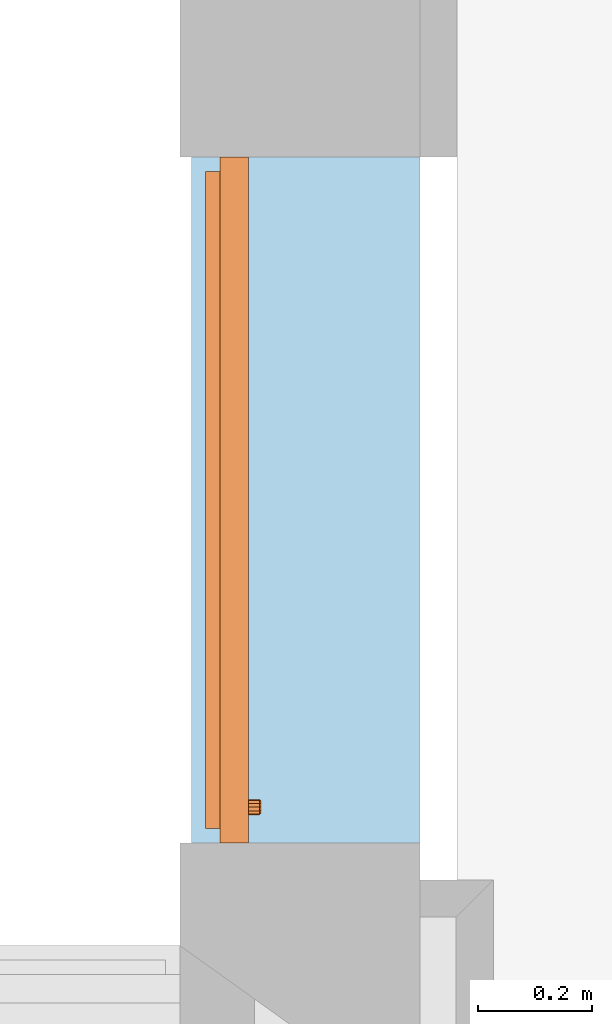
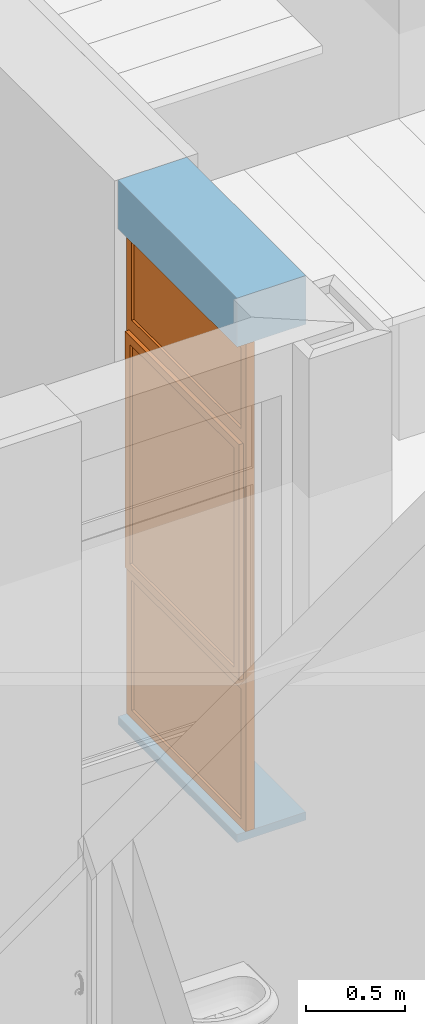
# One storey, part 53 of 68: 1 proxy, 1 opening, plus 1 element that does not belong to this part.
"""IFC2X3 building model written with IfcOpenShell, lengths in millimetres."""

import ifcopenshell
import ifcopenshell.guid

model = None  # the IFC model being written
_history = None  # IfcOwnerHistory: only IFC2X3 demands one
_inside = {}  # id of a spatial element -> (the spatial element, [elements in it])
_under = {}  # id of a project, library or spatial element -> (it, [spatial elements below it])
_declared = {}  # id of a project -> (the project, [libraries it declares])
_typed = {}  # id of a type object -> (the type object, [elements of that type])
_made_of = {}  # id of a material, layer set ... -> (it, [elements and type objects made of it])


def new_model(schema):
    """Start an empty IFC model of exactly this schema.

    Asked for "IFC4X3", IfcOpenShell would pick the latest addendum, in which some entities
    have other attributes; the version numbers below select the first issue.
    IFC2X3 requires an IfcOwnerHistory on every rooted entity: one is made here for all.
    """
    global model, _history
    if schema == "IFC4X3":
        model = ifcopenshell.file(schema_version=(4, 3, 0, 0))
    else:
        model = ifcopenshell.file(schema=schema)
    _inside.clear()
    _under.clear()
    _declared.clear()
    _typed.clear()
    _made_of.clear()
    _history = None
    if model.schema == "IFC2X3":
        org = make("IfcOrganization", Name="unknown")
        user = make(
            "IfcPersonAndOrganization",
            ThePerson=make("IfcPerson", FamilyName="unknown"),
            TheOrganization=org,
        )
        app = make(
            "IfcApplication",
            ApplicationDeveloper=org,
            Version="unknown",
            ApplicationFullName="unknown",
            ApplicationIdentifier="unknown",
        )
        _history = make(
            "IfcOwnerHistory",
            OwningUser=user,
            OwningApplication=app,
            ChangeAction="ADDED",
            CreationDate=0,
        )
    return model


def make(cls, **values):
    """One entity of the class cls with the attributes given. An attribute that is None is left unset."""
    return model.create_entity(
        cls, **{name: value for name, value in values.items() if value is not None}
    )


def entity(cls, *values):
    """Any entity or typed value of the class cls, its attributes in the order of the schema. None: left unset."""
    e = model.create_entity(cls)
    for i, value in enumerate(values):
        if value is not None:
            e[i] = value
    return e


def rooted(cls, **values):
    """An entity with a GlobalId (a new one), such as an element, a storey or a relation."""
    return make(cls, GlobalId=ifcopenshell.guid.new(), OwnerHistory=_history, **values)


def si_unit(unit_type, name, prefix=None):
    """IfcSIUnit, for example si_unit("LENGTHUNIT", "METRE", prefix="MILLI")."""
    return make("IfcSIUnit", UnitType=unit_type, Prefix=prefix, Name=name)


def converted_unit(unit_type, name, factor, base, dimensions=None, offset=None):
    """IfcConversionBasedUnit, such as the inch: factor (a typed value) times the base unit."""
    return make(
        "IfcConversionBasedUnit"
        if offset is None
        else "IfcConversionBasedUnitWithOffset",
        ConversionOffset=offset,
        Dimensions=None
        if dimensions is None
        else entity("IfcDimensionalExponents", *dimensions),
        UnitType=unit_type,
        Name=name,
        ConversionFactor=make(
            "IfcMeasureWithUnit", ValueComponent=factor, UnitComponent=base
        ),
    )


def derived_unit(unit_type, elements):
    """IfcDerivedUnit: a product of units, each with its exponent."""
    return make(
        "IfcDerivedUnit",
        Elements=[
            make("IfcDerivedUnitElement", Unit=unit, Exponent=power)
            for unit, power in elements
        ],
        UnitType=unit_type,
    )


def money_unit(currency):
    """IfcMonetaryUnit."""
    return make("IfcMonetaryUnit", Currency=currency)


def assignment(units):
    """IfcUnitAssignment: the units of a project."""
    return None if units is None else make("IfcUnitAssignment", Units=units)


def point(xyz):
    """IfcCartesianPoint."""
    return None if xyz is None else make("IfcCartesianPoint", Coordinates=xyz)


def direction(xyz):
    """IfcDirection."""
    return None if xyz is None else make("IfcDirection", DirectionRatios=xyz)


def frame(location, z_axis=None, x_axis=None):
    """IfcAxis2Placement3D, a coordinate frame: its origin and axes. An axis left out is left unset."""
    return make(
        "IfcAxis2Placement3D",
        Location=point(location),
        Axis=direction(z_axis),
        RefDirection=direction(x_axis),
    )


def frame_2d(location, x_axis=None):
    """IfcAxis2Placement2D, a coordinate frame in the plane: its origin and x axis."""
    return make(
        "IfcAxis2Placement2D", Location=point(location), RefDirection=direction(x_axis)
    )


def origin_with_axes():
    """The frame at (0, 0, 0) with the z axis (0, 0, 1) and the x axis (1, 0, 0) written out."""
    return frame((0.0, 0.0, 0.0), z_axis=(0.0, 0.0, 1.0), x_axis=(1.0, 0.0, 0.0))


def origin_2d_with_axis():
    """The frame at (0, 0) in the plane with the x axis (1, 0) written out."""
    return frame_2d((0.0, 0.0), x_axis=(1.0, 0.0))


def place(relative_to, where):
    """IfcLocalPlacement: puts the frame where relative to a parent placement (None: the world)."""
    return make(
        "IfcLocalPlacement", PlacementRelTo=relative_to, RelativePlacement=where
    )


def context(
    kind, dimensions, precision=None, world=None, true_north=None, identifier=None
):
    """IfcGeometricRepresentationContext, for example the 3D "Model" context."""
    return make(
        "IfcGeometricRepresentationContext",
        ContextIdentifier=identifier,
        ContextType=kind,
        CoordinateSpaceDimension=dimensions,
        Precision=precision,
        WorldCoordinateSystem=world,
        TrueNorth=true_north,
    )


def subcontext(parent, identifier, kind, view, scale=None):
    """IfcGeometricRepresentationSubContext, for example "Body" below "Model"."""
    return make(
        "IfcGeometricRepresentationSubContext",
        ContextIdentifier=identifier,
        ContextType=kind,
        ParentContext=parent,
        TargetScale=scale,
        TargetView=view,
    )


def project(units=None, contexts=None):
    """IfcProject with its units and contexts."""
    return rooted(
        "IfcProject",
        Name="project",
        RepresentationContexts=contexts,
        UnitsInContext=assignment(units),
    )


def spatial(cls, under=None, at=None, **own):
    """A site, building, storey or space (cls), placed at a placement, below another one or the project."""
    s = rooted(cls, ObjectPlacement=at, **own)
    if under is not None:
        _under.setdefault(under.id(), (under, []))[1].append(s)
    return s


def polyline(points):
    """IfcPolyline through the points."""
    return make("IfcPolyline", Points=[point(p) for p in points])


def profile(cls, at=None, kind="AREA", **sizes):
    """A parametric profile (cls). Its sizes go by their IFC names, for example OverallWidth=200.0."""
    return make(cls, ProfileType=kind, Position=at, **sizes)


def rectangle(**sizes):
    """IfcRectangleProfileDef."""
    return profile("IfcRectangleProfileDef", **sizes)


def outline(outer, holes=None, kind="AREA"):
    """IfcArbitraryClosedProfileDef: a profile drawn as a closed curve; with holes, ...WithVoids."""
    if holes is None:
        return make("IfcArbitraryClosedProfileDef", ProfileType=kind, OuterCurve=outer)
    return make(
        "IfcArbitraryProfileDefWithVoids",
        ProfileType=kind,
        OuterCurve=outer,
        InnerCurves=holes,
    )


def extrude(swept, where, along, depth):
    """IfcExtrudedAreaSolid: the profile swept, set in the frame where, extruded along a direction by depth."""
    return make(
        "IfcExtrudedAreaSolid",
        SweptArea=swept,
        Position=where,
        ExtrudedDirection=direction(along),
        Depth=depth,
    )


def faces_of(points, faces, orient=None, outer=None):
    """IfcFace entities. A face is a list of loops; a loop is a list of indices into points, from 0.

    orient and outer hold one flag for each loop. By default every Orientation is true, the
    first loop of a face is its IfcFaceOuterBound and the others are IfcFaceBound.
    """
    made = []
    for i, loops in enumerate(faces):
        bounds = []
        for j, loop in enumerate(loops):
            is_outer = j == 0 if outer is None else outer[i][j]
            bounds.append(
                make(
                    "IfcFaceOuterBound" if is_outer else "IfcFaceBound",
                    Bound=make("IfcPolyLoop", Polygon=[points[k] for k in loop]),
                    Orientation=True if orient is None else orient[i][j],
                )
            )
        made.append(make("IfcFace", Bounds=bounds))
    return made


def open_shell(faces, orient=None, outer=None):
    """The faces of one IfcOpenShell. surface_model builds it on its shared points."""
    return ("IfcOpenShell", faces, orient, outer)


def faceted_brep(points, faces, orient=None, outer=None, voids=None):
    """IfcFacetedBrep: a solid bounded by flat faces; with voids (closed shells), ...WithVoids."""
    shared = [point(p) for p in points]
    hull = make("IfcClosedShell", CfsFaces=faces_of(shared, faces, orient, outer))
    if voids is None:
        return make("IfcFacetedBrep", Outer=hull)
    return make(
        "IfcFacetedBrepWithVoids",
        Outer=hull,
        Voids=[
            make(cls, CfsFaces=faces_of(shared, fs, o, b)) for cls, fs, o, b in voids
        ],
    )


def surface_model(cls, points, shells):
    """IfcFaceBasedSurfaceModel or IfcShellBasedSurfaceModel (cls): surfaces that need not close."""
    shared = [point(p) for p in points]
    made = [make(c, CfsFaces=faces_of(shared, fs, o, b)) for c, fs, o, b in shells]
    if cls == "IfcFaceBasedSurfaceModel":
        return make(cls, FbsmFaces=made)
    return make(cls, SbsmBoundary=made)


def shape(context_of_items, identifier, shape_type, items):
    """IfcShapeRepresentation: the items that make up one representation, for example the "Body"."""
    return make(
        "IfcShapeRepresentation",
        ContextOfItems=context_of_items,
        RepresentationIdentifier=identifier,
        RepresentationType=shape_type,
        Items=items,
    )


def material(Name=None, Category=None):
    """IfcMaterial."""
    return make("IfcMaterial", Name=Name, Category=Category)


def layer(
    of_material, thickness, ventilated=None, Name=None, Category=None, Priority=None
):
    """IfcMaterialLayer: one layer of a wall or slab, of a material (None: an air gap)."""
    return make(
        "IfcMaterialLayer",
        Material=of_material,
        LayerThickness=thickness,
        IsVentilated=ventilated,
        Name=Name,
        Category=Category,
        Priority=Priority,
    )


def layer_set(layers, Name=None):
    """IfcMaterialLayerSet."""
    return make("IfcMaterialLayerSet", MaterialLayers=layers, LayerSetName=Name)


def layer_usage(for_layer_set, set_direction, sense, offset, extent=None):
    """IfcMaterialLayerSetUsage: how a layer set lies in its element."""
    return make(
        "IfcMaterialLayerSetUsage",
        ForLayerSet=for_layer_set,
        LayerSetDirection=set_direction,
        DirectionSense=sense,
        OffsetFromReferenceLine=offset,
        ReferenceExtent=extent,
    )


def made_of(thing, what):
    """Note that an element or type object is made of a material, layer set ...; save() writes the relation."""
    if what is not None:
        _made_of.setdefault(what.id(), (what, []))[1].append(thing)
    return thing


def type_object(cls, material=None, **own):
    """A type object (cls), such as IfcWallType, which elements share."""
    return made_of(rooted(cls, **own), material)


def element(
    cls,
    number,
    at=None,
    inside=None,
    cuts=None,
    type_object=None,
    material=None,
    context=None,
    identifier="Body",
    shape_type=None,
    held_by="IfcProductDefinitionShape",
    body=None,
    shapes=None,
    **own,
):
    """One element of the class cls, such as IfcWall. Its Tag is "e" and its number.

    at: its placement. inside: the storey or other place that contains it. cuts: it is an
    opening in that element (IfcRelVoidsElement). A single representation is given by context,
    identifier, shape_type and body (its items); several are given by shapes. held_by: the class
    of the entity that holds the representations. save() writes the other relations.
    """
    e = rooted(cls, Tag="e%d" % number, ObjectPlacement=at, **own)
    if body is not None:
        shapes = [shape(context, identifier, shape_type, body)]
    if shapes is not None:
        e.Representation = make(held_by, Representations=shapes)
    if inside is not None:
        _inside.setdefault(inside.id(), (inside, []))[1].append(e)
    if cuts is not None:
        rooted(
            "IfcRelVoidsElement", RelatingBuildingElement=cuts, RelatedOpeningElement=e
        )
    if type_object is not None:
        _typed.setdefault(type_object.id(), (type_object, []))[1].append(e)
    return made_of(e, material)


def fill(opening, filler):
    """IfcRelFillsElement: the door or window that sits in an opening."""
    return rooted(
        "IfcRelFillsElement",
        RelatingOpeningElement=opening,
        RelatedBuildingElement=filler,
    )


def aggregate(whole, parts):
    """IfcRelAggregates: a whole, such as a stair, and the parts it consists of."""
    return rooted("IfcRelAggregates", RelatingObject=whole, RelatedObjects=parts)


def save(model, path):
    """Write the relations noted so far, then the file.

    IfcRelAggregates (storeys below a building ...), IfcRelContainedInSpatialStructure (elements
    in a storey), IfcRelDefinesByType, IfcRelAssociatesMaterial and IfcRelDeclares: one each for
    every whole, place, type object, material and project.
    """
    for whole, parts in _under.values():
        aggregate(whole, parts)
    for where, things in _inside.values():
        rooted(
            "IfcRelContainedInSpatialStructure",
            RelatedElements=things,
            RelatingStructure=where,
        )
    for kind, things in _typed.values():
        rooted("IfcRelDefinesByType", RelatedObjects=things, RelatingType=kind)
    for what, things in _made_of.values():
        rooted("IfcRelAssociatesMaterial", RelatedObjects=things, RelatingMaterial=what)
    for by, libraries in _declared.values():
        rooted("IfcRelDeclares", RelatingContext=by, RelatedDefinitions=libraries)
    model.write(path)


model = new_model("IFC2X3")

# Units and contexts
model_context = context("Model", 3, precision=0.01, world=origin_with_axes(), true_north=direction((0.0, 1.0)))
body_context = subcontext(model_context, "Body", "Model", "MODEL_VIEW")
ifc_project = project(units=[si_unit("LENGTHUNIT", "METRE", prefix="MILLI"), si_unit("AREAUNIT", "SQUARE_METRE"), si_unit("VOLUMEUNIT", "CUBIC_METRE"), converted_unit("PLANEANGLEUNIT", "DEGREE", entity("IfcPlaneAngleMeasure", 0.0174532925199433), si_unit("PLANEANGLEUNIT", "RADIAN"), dimensions=[0, 0, 0, 0, 0, 0, 0]), money_unit("USD"), converted_unit("TIMEUNIT", "Year", entity("IfcTimeMeasure", 31557600.0), si_unit("TIMEUNIT", "SECOND"), dimensions=[0, 0, 1, 0, 0, 0, 0]), si_unit("MASSUNIT", "GRAM", prefix="KILO"), si_unit("THERMODYNAMICTEMPERATUREUNIT", "DEGREE_CELSIUS"), si_unit("LUMINOUSINTENSITYUNIT", "LUMEN"), si_unit("ENERGYUNIT", "JOULE", prefix="MEGA"), derived_unit("THERMALCONDUCTANCEUNIT", [(si_unit("POWERUNIT", "WATT"), 1), (si_unit("LENGTHUNIT", "METRE"), -1), (si_unit("THERMODYNAMICTEMPERATUREUNIT", "KELVIN"), -1)]), derived_unit("SPECIFICHEATCAPACITYUNIT", [(si_unit("ENERGYUNIT", "JOULE"), 1), (si_unit("MASSUNIT", "GRAM", prefix="KILO"), -1), (si_unit("THERMODYNAMICTEMPERATUREUNIT", "KELVIN"), -1)]), derived_unit("MASSDENSITYUNIT", [(si_unit("MASSUNIT", "GRAM", prefix="KILO"), 1), (si_unit("VOLUMEUNIT", "CUBIC_METRE"), -1)])], contexts=[model_context])

# Site, building, storey
site_placement = place(None, origin_with_axes())
site = spatial("IfcSite", under=ifc_project, at=site_placement, Name="Sitio", CompositionType="ELEMENT")
building_placement = place(site_placement, origin_with_axes())
building = spatial("IfcBuilding", under=site, at=building_placement, Name="Construcción", CompositionType="ELEMENT")
storey_placement = place(building_placement, origin_with_axes())
storey = spatial("IfcBuildingStorey", under=building, at=storey_placement, Name="PLANTA 1ª", CompositionType="ELEMENT", Elevation=0.0)

# Wall, opening, proxy
ifc_material_1 = material(Name="ARQ_AM246_Arrebossat_De_Guix")
ifc_layer_1 = layer(ifc_material_1, 10.0, ventilated="UNKNOWN")
ifc_material_2 = material(Name="ARQ_CE217_Gero")
ifc_layer_2 = layer(ifc_material_2, 150.0, ventilated="UNKNOWN")
ifc_material_3 = material(Name="ARQ_AI031_Aillament_Poliestireno expandido EPS")
ifc_layer_3 = layer(ifc_material_3, 150.0, ventilated="UNKNOWN")
ifc_material_4 = material(Name="ARQ_CE218_Ceramic")
ifc_layer_4 = layer(ifc_material_4, 80.0, ventilated="UNKNOWN")
ifc_layer_5 = layer(ifc_material_1, 10.0, ventilated="UNKNOWN")
ifc_layer_set = layer_set([ifc_layer_1, ifc_layer_2, ifc_layer_3, ifc_layer_4, ifc_layer_5], Name="façana pati CR1 (ampit)")
ifc_layer_usage = layer_usage(ifc_layer_set, "AXIS2", "POSITIVE", -400.0)
wall_type = type_object("IfcWallType", Name="façana pati CR1 (ampit) 400", PredefinedType="NOTDEFINED")
wall_placement = place(storey_placement, frame((-1681.109004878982, -10658.9758237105, 0.0), z_axis=(0.0, 0.0, 1.0), x_axis=(0.0, -1.0, 0.0)))
wall = element("IfcWallStandardCase", 1, at=wall_placement, inside=storey, type_object=wall_type, material=ifc_layer_usage, Name="MS-199", context=body_context, shape_type="SweptSolid", body=[
    extrude(outline(polyline([(0.0, -399.9999999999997), (1199.999999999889, -400.0000000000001), (1199.999999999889, 0.0), (0.0, 0.0), (0.0, -399.9999999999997)])), origin_with_axes(), (0.0, 0.0, 1.0), 3350.0),
])
opening_placement = place(wall_placement, frame((599.9999999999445, 0.0, 50.0), z_axis=(0.0, 0.0, 1.0), x_axis=(1.0, 0.0, 0.0)))
opening = element("IfcOpeningElement", 2, at=opening_placement, cuts=wall, Name="F01", context=body_context, shape_type="SweptSolid", body=[
    extrude(rectangle(XDim=1199.999999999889, YDim=3000.0, at=origin_2d_with_axis()), frame((0.0, -350.0000000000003, 1500.0), z_axis=(0.0, -1.0, 0.0), x_axis=(-1.0, 0.0, 0.0)), (0.0, 0.0, -1.0), 750.0),
    extrude(rectangle(XDim=1199.999999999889, YDim=3000.0, at=origin_2d_with_axis()), frame((0.0, -350.0000000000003, 1500.0), z_axis=(0.0, 1.0, 0.0), x_axis=(-1.0, 0.0, 0.0)), (0.0, 0.0, -1.0), 450.0),
])
building_element_proxy_type = type_object("IfcBuildingElementProxyType", Name="Ventana Vertical Multi-Faja 27", PredefinedType="NOTDEFINED")
proxy_placement = place(opening_placement, frame((599.9999999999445, 0.0, 0.0), z_axis=(0.0, 0.0, 1.0), x_axis=(-1.0, 0.0, 0.0)))
proxy = element("IfcBuildingElementProxy", 3, at=proxy_placement, inside=storey, type_object=building_element_proxy_type, Name="F01", context=body_context, shape_type="SurfaceModel", body=[
    faceted_brep([(25.00000000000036, 350.0000000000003, 925.0), (49.99999999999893, 350.0000000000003, 925.0), (49.99999999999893, 350.0000000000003, 850.0), (49.99999999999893, 350.0000000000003, 50.00000000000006), (0.0, 350.0000000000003, 50.00000000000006), (0.0, 349.9999999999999, 2950.0), (49.99999999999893, 349.9999999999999, 2950.0), (49.99999999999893, 349.9999999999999, 2450.0), (49.99999999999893, 349.9999999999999, 2375.0), (25.00000000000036, 349.9999999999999, 2375.0), (25.00000000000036, 325.0000000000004, 925.0), (49.99999999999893, 325.0000000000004, 925.0), (49.99999999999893, 325.0000000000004, 950.0), (49.99999999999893, 300.0000000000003, 950.0), (49.99999999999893, 300.0000000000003, 850.0), (49.99999999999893, 300.0000000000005, 50.00000000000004), (0.0, 300.0000000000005, 50.00000000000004), (0.0, 300.0000000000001, 2950.0), (49.99999999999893, 300.0000000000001, 2950.0), (49.99999999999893, 300.0000000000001, 2450.0), (49.99999999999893, 324.9999999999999, 2375.0), (49.99999999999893, 300.0000000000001, 2350.0), (49.99999999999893, 324.9999999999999, 2350.0), (25.00000000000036, 324.9999999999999, 2375.0)], [[[0, 1, 2, 3, 4, 5, 6, 7, 8, 9]], [[0, 10, 11, 1]], [[11, 12, 13, 14, 2, 1]], [[3, 2, 14, 15]], [[4, 3, 15, 16]], [[5, 4, 16, 17]], [[6, 5, 17, 18]], [[7, 6, 18, 19]], [[20, 8, 7, 19, 21, 22]], [[20, 23, 9, 8]], [[9, 23, 10, 0]], [[22, 12, 11, 10, 23, 20]], [[22, 21, 13, 12]], [[17, 16, 15, 14, 13, 21, 19, 18]]]),
    faceted_brep([(1174.999999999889, 349.9999999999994, 925.0), (1174.999999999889, 349.9999999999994, 2375.0), (1149.99999999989, 349.9999999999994, 2375.0), (1149.99999999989, 349.9999999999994, 2450.0), (1149.99999999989, 349.999999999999, 2950.0), (1199.999999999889, 349.999999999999, 2950.0), (1199.999999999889, 349.9999999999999, 50.00000000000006), (1149.99999999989, 349.9999999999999, 50.00000000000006), (1149.99999999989, 349.9999999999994, 850.0), (1149.99999999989, 349.9999999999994, 925.0), (1174.999999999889, 324.9999999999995, 925.0), (1174.999999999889, 324.9999999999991, 2375.0), (1149.99999999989, 324.9999999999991, 2375.0), (1149.99999999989, 324.9999999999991, 2350.0), (1149.99999999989, 299.9999999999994, 2350.0), (1149.99999999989, 299.9999999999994, 2450.0), (1149.99999999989, 299.9999999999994, 2950.0), (1199.999999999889, 299.9999999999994, 2950.0), (1199.999999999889, 299.9999999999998, 50.00000000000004), (1149.99999999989, 299.9999999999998, 50.00000000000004), (1149.99999999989, 299.9999999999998, 850.0), (1149.99999999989, 324.9999999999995, 925.0), (1149.99999999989, 299.9999999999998, 950.0), (1149.99999999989, 324.9999999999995, 950.0)], [[[0, 1, 2, 3, 4, 5, 6, 7, 8, 9]], [[0, 10, 11, 1]], [[1, 11, 12, 2]], [[12, 13, 14, 15, 3, 2]], [[4, 3, 15, 16]], [[5, 4, 16, 17]], [[6, 5, 17, 18]], [[7, 6, 18, 19]], [[8, 7, 19, 20]], [[21, 9, 8, 20, 22, 23]], [[9, 21, 10, 0]], [[12, 11, 10, 21, 23, 13]], [[23, 22, 14, 13]], [[14, 22, 20, 19, 18, 17, 16, 15]]]),
    faceted_brep([(49.99999999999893, 325.0000000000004, 950.0), (49.99999999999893, 300.0000000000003, 950.0), (1149.99999999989, 299.9999999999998, 950.0), (1149.99999999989, 324.9999999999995, 950.0), (49.99999999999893, 325.0000000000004, 925.0), (49.99999999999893, 350.0000000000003, 925.0), (49.99999999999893, 350.0000000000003, 850.0), (49.99999999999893, 300.0000000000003, 850.0), (1149.99999999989, 299.9999999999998, 850.0), (1149.99999999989, 324.9999999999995, 925.0), (1149.99999999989, 349.9999999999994, 850.0), (1149.99999999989, 349.9999999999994, 925.0)], [[[0, 1, 2, 3]], [[4, 5, 6, 7, 1, 0]], [[1, 7, 8, 2]], [[9, 3, 2, 8, 10, 11]], [[9, 4, 0, 3]], [[5, 4, 9, 11]], [[11, 10, 6, 5]], [[6, 10, 8, 7]]]),
    faceted_brep([(49.99999999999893, 349.9999999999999, 2375.0), (49.99999999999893, 349.9999999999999, 2450.0), (1149.99999999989, 349.9999999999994, 2450.0), (1149.99999999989, 349.9999999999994, 2375.0), (49.99999999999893, 324.9999999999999, 2375.0), (49.99999999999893, 324.9999999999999, 2350.0), (49.99999999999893, 300.0000000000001, 2350.0), (49.99999999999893, 300.0000000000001, 2450.0), (1149.99999999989, 299.9999999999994, 2450.0), (1149.99999999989, 324.9999999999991, 2375.0), (1149.99999999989, 299.9999999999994, 2350.0), (1149.99999999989, 324.9999999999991, 2350.0)], [[[0, 1, 2, 3]], [[4, 5, 6, 7, 1, 0]], [[2, 1, 7, 8]], [[9, 3, 2, 8, 10, 11]], [[9, 4, 0, 3]], [[11, 5, 4, 9]], [[11, 10, 6, 5]], [[7, 6, 10, 8]]]),
    faceted_brep([(1149.99999999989, 299.9999999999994, 2950.0), (1149.99999999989, 349.999999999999, 2950.0), (1199.999999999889, 349.999999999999, 2950.0), (1199.999999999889, 299.9999999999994, 2950.0), (49.99999999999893, 300.0000000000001, 2950.0), (49.99999999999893, 349.9999999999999, 2950.0), (0.0, 349.9999999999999, 2950.0), (0.0, 349.9999999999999, 3000.0), (1199.999999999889, 349.999999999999, 3000.0), (1199.999999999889, 299.9999999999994, 3000.0), (0.0, 300.0000000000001, 3000.0), (0.0, 300.0000000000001, 2950.0)], [[[0, 1, 2, 3]], [[4, 5, 1, 0]], [[1, 5, 6, 7, 8, 2]], [[3, 2, 8, 9]], [[0, 3, 9, 10, 11, 4]], [[11, 6, 5, 4]], [[10, 7, 6, 11]], [[9, 8, 7, 10]]]),
    faceted_brep([(49.99999999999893, 300.0000000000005, 50.0), (49.99999999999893, 350.0000000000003, 50.0), (0.0, 350.0000000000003, 50.0), (0.0, 300.0000000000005, 50.0), (1149.99999999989, 299.9999999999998, 50.0), (1149.99999999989, 349.9999999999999, 50.0), (1199.999999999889, 349.9999999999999, 50.0), (1199.999999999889, 349.9999999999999, 0.0), (0.0, 350.0000000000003, 0.0), (0.0, 300.0000000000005, 0.0), (1199.999999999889, 299.9999999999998, 0.0), (1199.999999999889, 299.9999999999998, 50.0)], [[[0, 1, 2, 3]], [[4, 5, 1, 0]], [[1, 5, 6, 7, 8, 2]], [[3, 2, 8, 9]], [[0, 3, 9, 10, 11, 4]], [[11, 6, 5, 4]], [[10, 7, 6, 11]], [[9, 8, 7, 10]]]),
    surface_model("IfcShellBasedSurfaceModel", [(49.99999999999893, 315.0000000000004, 50.0), (1149.99999999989, 314.9999999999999, 50.0), (1149.99999999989, 314.9999999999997, 850.0), (49.99999999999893, 315.0000000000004, 850.0)], [open_shell([[[0, 1, 2, 3]]])]),
    surface_model("IfcShellBasedSurfaceModel", [(49.99999999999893, 335.0000000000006, 50.0), (49.99999999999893, 335.0000000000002, 850.0), (1149.99999999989, 334.9999999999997, 850.0), (1149.99999999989, 334.9999999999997, 50.0)], [open_shell([[[0, 1, 2, 3]]])]),
    faceted_brep([(78.50000000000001, 324.9999999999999, 1677.0), (77.16025403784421, 324.9999999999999, 1682.0), (77.16025403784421, 313.0000000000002, 1682.0), (78.50000000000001, 313.0000000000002, 1677.0), (78.50000000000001, 324.9999999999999, 1623.0), (77.16025403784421, 324.9999999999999, 1618.0), (73.49999999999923, 324.9999999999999, 1614.339745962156), (68.50000000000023, 324.9999999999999, 1613.0), (56.49999999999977, 325.0000000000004, 1613.0), (51.49999999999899, 325.0000000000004, 1614.339745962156), (47.83974596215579, 325.0000000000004, 1618.0), (46.49999999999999, 325.0000000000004, 1623.0), (46.49999999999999, 324.9999999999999, 1677.0), (47.83974596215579, 324.9999999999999, 1682.0), (51.49999999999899, 324.9999999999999, 1685.660254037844), (56.49999999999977, 324.9999999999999, 1687.0), (68.50000000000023, 324.9999999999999, 1687.0), (73.49999999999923, 324.9999999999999, 1685.660254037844), (73.49999999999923, 313.0000000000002, 1685.660254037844), (68.50000000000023, 313.0000000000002, 1687.0), (56.49999999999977, 313.0000000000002, 1687.0), (51.49999999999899, 313.0000000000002, 1685.660254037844), (47.83974596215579, 313.0000000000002, 1682.0), (46.49999999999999, 313.0000000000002, 1677.0), (46.49999999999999, 313.0000000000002, 1623.0), (47.83974596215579, 313.0000000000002, 1618.0), (51.49999999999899, 313.0000000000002, 1614.339745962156), (56.49999999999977, 313.0000000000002, 1613.0), (68.50000000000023, 313.0000000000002, 1613.0), (73.49999999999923, 313.0000000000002, 1614.339745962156), (77.16025403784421, 313.0000000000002, 1618.0), (78.50000000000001, 313.0000000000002, 1623.0)], [[[0, 1, 2, 3]], [[0, 4, 5, 6, 7, 8, 9, 10, 11, 12, 13, 14, 15, 16, 17, 1]], [[1, 17, 18, 2]], [[3, 2, 18, 19, 20, 21, 22, 23, 24, 25, 26, 27, 28, 29, 30, 31]], [[4, 0, 3, 31]], [[5, 4, 31, 30]], [[6, 5, 30, 29]], [[7, 6, 29, 28]], [[8, 7, 28, 27]], [[9, 8, 27, 26]], [[10, 9, 26, 25]], [[11, 10, 25, 24]], [[12, 11, 24, 23]], [[13, 12, 23, 22]], [[14, 13, 22, 21]], [[15, 14, 21, 20]], [[16, 15, 20, 19]], [[17, 16, 19, 18]]]),
    faceted_brep([(62.5, 313.0000000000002, 1663.5), (55.74999999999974, 313.0000000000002, 1661.69134295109), (55.74999999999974, 289.0000000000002, 1661.69134295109), (62.5, 289.0000000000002, 1663.5), (69.25000000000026, 313.0000000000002, 1661.69134295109), (74.19134295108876, 313.0000000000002, 1656.75), (76.00000000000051, 313.0000000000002, 1650.0), (74.19134295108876, 313.0000000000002, 1643.25), (69.25000000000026, 313.0000000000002, 1638.30865704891), (62.5, 313.0000000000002, 1636.5), (55.74999999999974, 313.0000000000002, 1638.30865704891), (50.80865704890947, 313.0000000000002, 1643.25), (48.99999999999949, 313.0000000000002, 1650.0), (50.80865704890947, 313.0000000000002, 1656.75), (50.80865704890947, 289.0000000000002, 1656.75), (48.99999999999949, 289.0000000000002, 1650.0), (50.80865704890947, 289.0000000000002, 1643.25), (55.74999999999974, 289.0000000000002, 1638.30865704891), (62.5, 289.0000000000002, 1636.5), (69.25000000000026, 289.0000000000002, 1638.30865704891), (74.19134295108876, 289.0000000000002, 1643.25), (76.00000000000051, 289.0000000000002, 1650.0), (74.19134295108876, 289.0000000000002, 1656.75), (69.25000000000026, 289.0000000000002, 1661.69134295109)], [[[0, 1, 2, 3]], [[0, 4, 5, 6, 7, 8, 9, 10, 11, 12, 13, 1]], [[1, 13, 14, 2]], [[3, 2, 14, 15, 16, 17, 18, 19, 20, 21, 22, 23]], [[4, 0, 3, 23]], [[5, 4, 23, 22]], [[6, 5, 22, 21]], [[7, 6, 21, 20]], [[8, 7, 20, 19]], [[9, 8, 19, 18]], [[10, 9, 18, 17]], [[11, 10, 17, 16]], [[12, 11, 16, 15]], [[13, 12, 15, 14]]]),
    faceted_brep([(73.99999999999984, 289.0000000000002, 1543.0), (62.5, 289.0000000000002, 1540.0), (51.00000000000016, 289.0000000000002, 1543.0), (48.99999999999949, 289.0000000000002, 1546.0), (48.99999999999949, 289.0000000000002, 1650.0), (50.80865704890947, 289.0000000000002, 1656.75), (55.74999999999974, 289.0000000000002, 1661.69134295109), (62.5, 289.0000000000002, 1663.5), (69.25000000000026, 289.0000000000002, 1661.69134295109), (74.19134295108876, 289.0000000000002, 1656.75), (76.00000000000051, 289.0000000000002, 1650.0), (76.00000000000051, 289.0000000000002, 1546.0), (74.00000006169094, 281.0000000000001, 1543.000000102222), (62.5000000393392, 281.0000000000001, 1539.999999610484), (51.00000001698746, 281.0000000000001, 1543.000000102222), (48.99999968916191, 281.0000000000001, 1545.999999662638), (48.99999968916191, 281.0000000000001, 1649.99999994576), (50.80865700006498, 281.0000000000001, 1656.749999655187), (55.75000032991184, 281.0000000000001, 1661.691342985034), (62.5000000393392, 281.0000000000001, 1663.500000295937), (69.24999974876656, 281.0000000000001, 1661.691342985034), (74.19134307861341, 281.0000000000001, 1656.749999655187), (76.00000038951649, 281.0000000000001, 1649.99999994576), (76.00000038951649, 281.0000000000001, 1545.999999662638), (72.13746253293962, 278.0000004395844, 1545.61451963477), (62.5000000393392, 278.0000004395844, 1543.100398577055), (52.86253754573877, 278.0000004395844, 1545.61451963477), (51.99999924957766, 278.0000004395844, 1546.908326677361), (51.99999924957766, 278.0000004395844, 1649.605042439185), (53.49838296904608, 278.0000004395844, 1655.197085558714), (57.30291442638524, 278.0000004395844, 1659.001617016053), (62.5000000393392, 278.0000004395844, 1660.394172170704), (67.69708565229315, 278.0000004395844, 1659.001617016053), (71.50161710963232, 278.0000004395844, 1655.197085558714), (73.00000082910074, 278.0000004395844, 1649.605042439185), (73.00000082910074, 278.0000004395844, 1546.908326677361)], [[[0, 1, 2, 3, 4, 5, 6, 7, 8, 9, 10, 11]], [[1, 0, 12, 13]], [[2, 1, 13, 14]], [[3, 2, 14, 15]], [[4, 3, 15, 16]], [[5, 4, 16, 17]], [[6, 5, 17, 18]], [[7, 6, 18, 19]], [[8, 7, 19, 20]], [[9, 8, 20, 21]], [[10, 9, 21, 22]], [[11, 10, 22, 23]], [[0, 11, 23, 12]], [[13, 12, 24, 25]], [[14, 13, 25, 26]], [[15, 14, 26, 27]], [[16, 15, 27, 28]], [[17, 16, 28, 29]], [[18, 17, 29, 30]], [[19, 18, 30, 31]], [[20, 19, 31, 32]], [[21, 20, 32, 33]], [[22, 21, 33, 34]], [[23, 22, 34, 35]], [[12, 23, 35, 24]], [[26, 25, 24, 35, 34, 33, 32, 31, 30, 29, 28, 27]]]),
    faceted_brep([(74.99999999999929, 324.9999999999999, 2325.0), (74.99999999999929, 375.0000000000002, 2325.0), (25.00000000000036, 375.0000000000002, 2325.0), (25.00000000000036, 324.9999999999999, 2325.0), (74.99999999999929, 325.0000000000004, 975.0000000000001), (74.99999999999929, 375.0000000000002, 975.0000000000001), (25.00000000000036, 375.0000000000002, 975.0000000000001), (25.00000000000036, 325.0000000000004, 975.0000000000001)], [[[0, 1, 2, 3]], [[4, 5, 1, 0]], [[1, 5, 6, 2]], [[3, 2, 6, 7]], [[0, 3, 7, 4]], [[7, 6, 5, 4]]]),
    faceted_brep([(1124.99999999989, 324.9999999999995, 975.0000000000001), (1124.99999999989, 374.9999999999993, 975.0000000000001), (1174.999999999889, 374.9999999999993, 975.0000000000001), (1174.999999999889, 324.9999999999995, 975.0000000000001), (1124.99999999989, 324.9999999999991, 2325.0), (1124.99999999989, 374.9999999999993, 2325.0), (1174.999999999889, 374.9999999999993, 2325.0), (1174.999999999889, 324.9999999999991, 2325.0)], [[[0, 1, 2, 3]], [[4, 5, 1, 0]], [[1, 5, 6, 2]], [[3, 2, 6, 7]], [[0, 3, 7, 4]], [[7, 6, 5, 4]]]),
    faceted_brep([(1174.999999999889, 324.9999999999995, 925.0), (1174.999999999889, 374.9999999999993, 925.0), (1174.999999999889, 374.9999999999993, 975.0000000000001), (1174.999999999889, 324.9999999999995, 975.0000000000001), (25.00000000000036, 325.0000000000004, 925.0), (25.00000000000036, 375.0000000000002, 925.0), (25.00000000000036, 375.0000000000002, 975.0000000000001), (74.99999999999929, 375.0000000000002, 975.0000000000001), (1124.99999999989, 374.9999999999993, 975.0000000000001), (1124.99999999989, 324.9999999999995, 975.0000000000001), (74.99999999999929, 325.0000000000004, 975.0000000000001), (25.00000000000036, 325.0000000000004, 975.0000000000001)], [[[0, 1, 2, 3]], [[4, 5, 1, 0]], [[1, 5, 6, 7, 8, 2]], [[3, 2, 8, 9]], [[0, 3, 9, 10, 11, 4]], [[11, 6, 5, 4]], [[10, 7, 6, 11]], [[9, 8, 7, 10]]]),
    faceted_brep([(25.00000000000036, 324.9999999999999, 2375.0), (25.00000000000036, 375.0000000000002, 2375.0), (25.00000000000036, 375.0000000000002, 2325.0), (25.00000000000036, 324.9999999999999, 2325.0), (1174.999999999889, 324.9999999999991, 2375.0), (1174.999999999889, 374.9999999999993, 2375.0), (1174.999999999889, 374.9999999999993, 2325.0), (1124.99999999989, 374.9999999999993, 2325.0), (74.99999999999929, 375.0000000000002, 2325.0), (74.99999999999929, 324.9999999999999, 2325.0), (1124.99999999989, 324.9999999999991, 2325.0), (1174.999999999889, 324.9999999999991, 2325.0)], [[[0, 1, 2, 3]], [[4, 5, 1, 0]], [[1, 5, 6, 7, 8, 2]], [[3, 2, 8, 9]], [[0, 3, 9, 10, 11, 4]], [[11, 6, 5, 4]], [[10, 7, 6, 11]], [[9, 8, 7, 10]]]),
    surface_model("IfcShellBasedSurfaceModel", [(74.99999999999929, 340.0000000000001, 975.0000000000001), (1124.99999999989, 339.9999999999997, 975.0000000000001), (1124.99999999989, 339.9999999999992, 2325.0), (74.99999999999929, 340.0000000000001, 2325.0)], [open_shell([[[0, 1, 2, 3]]])]),
    surface_model("IfcShellBasedSurfaceModel", [(74.99999999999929, 360.0000000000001, 975.0000000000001), (74.99999999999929, 360.0000000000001, 2325.0), (1124.99999999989, 359.9999999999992, 2325.0), (1124.99999999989, 359.9999999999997, 975.0000000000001)], [open_shell([[[0, 1, 2, 3]]])]),
    surface_model("IfcShellBasedSurfaceModel", [(49.99999999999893, 314.9999999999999, 2450.0), (1149.99999999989, 314.9999999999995, 2450.0), (1149.99999999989, 314.9999999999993, 2950.0), (49.99999999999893, 314.9999999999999, 2950.0)], [open_shell([[[0, 1, 2, 3]]])]),
    surface_model("IfcShellBasedSurfaceModel", [(49.99999999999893, 335.0000000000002, 2450.0), (49.99999999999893, 334.9999999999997, 2950.0), (1149.99999999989, 334.9999999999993, 2950.0), (1149.99999999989, 334.9999999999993, 2450.0)], [open_shell([[[0, 1, 2, 3]]])]),
])
fill(opening, proxy)

save(model, "model.ifc")
